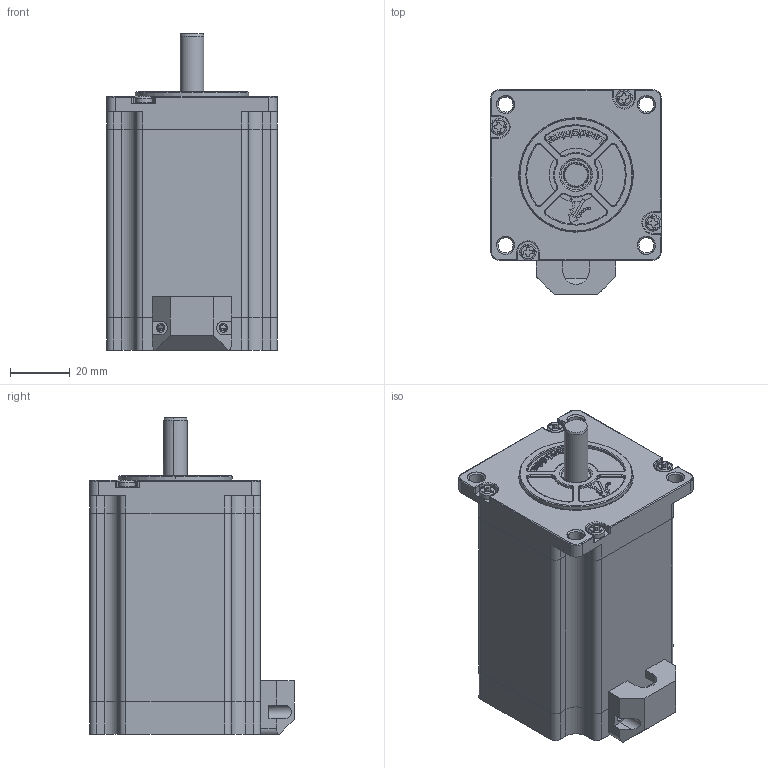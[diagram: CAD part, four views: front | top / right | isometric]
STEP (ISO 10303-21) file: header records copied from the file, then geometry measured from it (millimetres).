
FILE_DESCRIPTION (( 'STEP AP203' ), '1' );
FILE_NAME ('57CM26-4A MS20.STEP', '2021-04-22T05:44:44', ( 'Owner' ), ( 'Organization' ), 'SwSTEP 2.0', 'SolidWorks 2018', '' );
FILE_SCHEMA (( 'CONFIG_CONTROL_DESIGN' ));
Length unit declared in the file: millimetre
Products named in the file (12): YXB 57S-朴6.2FC-02.step_1; 608ZZ_1; ZZ57HS076DF038X-S2_1; 耳12-耳8-4.7_1; DG57HSD-004-S03_1; DZTX57HSD53-S1_1; M3x72_1; GJ57HSD26-S01_1; 57CM26-4A MS20; 耳12-耳8-5.5_1; Z57HS76MD21B15-04_1_1; DG57HSD-005-S05_1
Assembly tree (16 placements, depth 3):
  57CM26-4A MS20
    GJ57HSD26-S01_1  x2
    ZZ57HS076DF038X-S2_1
      Z57HS76MD21B15-04_1_1
      608ZZ_1  x2
      耳12-耳8-5.5_1
      耳12-耳8-4.7_1
    DG57HSD-005-S05_1
    DG57HSD-004-S03_1
    M3x72_1  x4
    YXB 57S-朴6.2FC-02.step_1
    DZTX57HSD53-S1_1
Bounding box: 57.22 x 68.51 x 106 mm (x, y, z)
Volume: 136183.1 mm3; surface area: 113481.7 mm2
Topology: 15 solids, 15 shells, 2429 faces, 6625 edges, 4250 vertices
Faces by surface type: cylinder 1098, plane 973, bspline 291, cone 67
Entity records: 64261 total; most frequent: CARTESIAN_POINT 16217, ORIENTED_EDGE 10090, DIRECTION 9644, EDGE_CURVE 5045, AXIS2_PLACEMENT_3D 3404, VERTEX_POINT 3257, LINE 2836, VECTOR 2836
